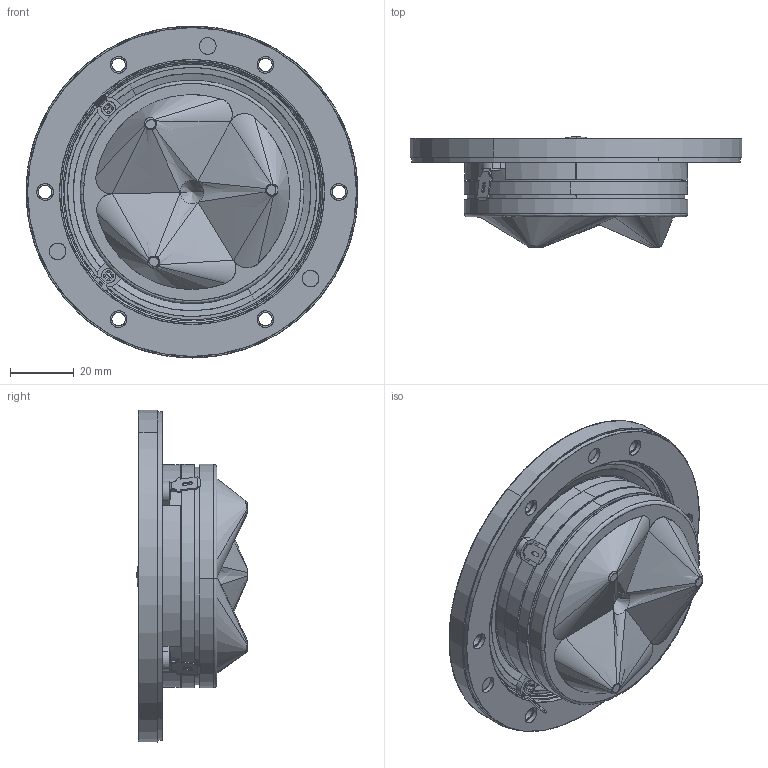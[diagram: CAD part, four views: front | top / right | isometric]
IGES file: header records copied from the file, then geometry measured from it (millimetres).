
Start section: SolidWorks IGES file using analytic representation for surfaces
Global section: file name: W:\TT\D29\D2904-710000\D2904-710003.IGS; native system: SolidWorks 2019; preprocessor: SolidWorks 2019; author: mhn; date: 201124.105236; units: millimetre
Bounding box: 104 x 34.65 x 104 mm (x, y, z)
Surface area: 33837.8 mm2 (no closed solid volume)
Topology: 0 solids, 0 shells, 467 faces, 7544 edges, 7533 vertices
Faces by surface type: bspline 252, revolution 215
